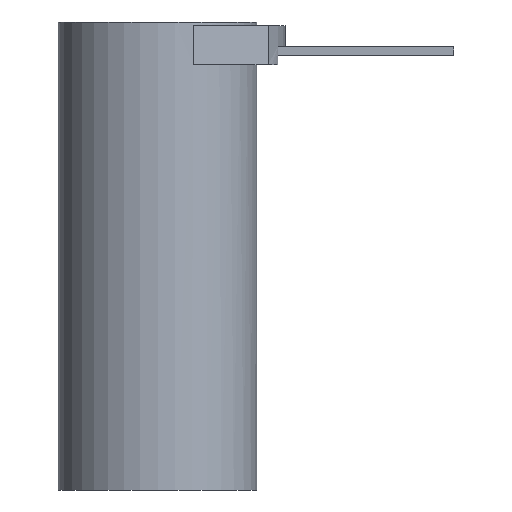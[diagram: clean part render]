
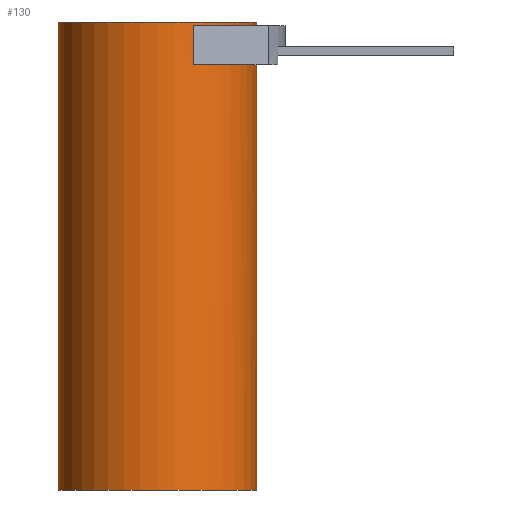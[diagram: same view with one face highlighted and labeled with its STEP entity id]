
A CAD part, front view. The second image highlights one B-rep face of the part: STEP entity #130.
In plain terms, the highlighted cylindrical face has radius 14 mm (diameter 28 mm), a partial arc.
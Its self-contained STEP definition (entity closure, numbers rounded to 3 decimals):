
#113=CYLINDRICAL_SURFACE('',#597,14.);
#130=ADVANCED_FACE('',(#175),#113,.T.);
#175=FACE_OUTER_BOUND('',#198,.T.);
#198=EDGE_LOOP('',(#301,#302,#303,#304,#305,#306,#307,#308,#309,#310));
#224=CIRCLE('',#577,14.);
#225=CIRCLE('',#580,14.);
#230=CIRCLE('',#590,14.);
#233=CIRCLE('',#595,14.);
#234=CIRCLE('',#596,14.);
#301=ORIENTED_EDGE('',*,*,#452,.F.);
#302=ORIENTED_EDGE('',*,*,#457,.F.);
#303=ORIENTED_EDGE('',*,*,#458,.T.);
#304=ORIENTED_EDGE('',*,*,#455,.T.);
#305=ORIENTED_EDGE('',*,*,#459,.F.);
#306=ORIENTED_EDGE('',*,*,#453,.F.);
#307=ORIENTED_EDGE('',*,*,#438,.F.);
#308=ORIENTED_EDGE('',*,*,#435,.F.);
#309=ORIENTED_EDGE('',*,*,#434,.F.);
#310=ORIENTED_EDGE('',*,*,#448,.F.);
#388=VERTEX_POINT('',#794);
#390=VERTEX_POINT('',#798);
#391=VERTEX_POINT('',#802);
#393=VERTEX_POINT('',#808);
#398=VERTEX_POINT('',#825);
#400=VERTEX_POINT('',#833);
#401=VERTEX_POINT('',#837);
#402=VERTEX_POINT('',#839);
#403=VERTEX_POINT('',#841);
#404=VERTEX_POINT('',#843);
#434=EDGE_CURVE('',#390,#388,#224,.T.);
#435=EDGE_CURVE('',#388,#391,#498,.T.);
#438=EDGE_CURVE('',#391,#393,#225,.T.);
#448=EDGE_CURVE('',#398,#390,#508,.T.);
#452=EDGE_CURVE('',#400,#398,#230,.T.);
#453=EDGE_CURVE('',#393,#401,#510,.T.);
#455=EDGE_CURVE('',#403,#402,#511,.T.);
#457=EDGE_CURVE('',#404,#400,#512,.T.);
#458=EDGE_CURVE('',#404,#403,#233,.T.);
#459=EDGE_CURVE('',#401,#402,#234,.T.);
#498=LINE('',#801,#537);
#508=LINE('',#827,#547);
#510=LINE('',#836,#549);
#511=LINE('',#840,#550);
#512=LINE('',#844,#551);
#537=VECTOR('',#647,1.);
#547=VECTOR('',#671,1.);
#549=VECTOR('',#685,1.);
#550=VECTOR('',#688,1.);
#551=VECTOR('',#691,1.);
#577=AXIS2_PLACEMENT_3D('',#799,#643,#644);
#580=AXIS2_PLACEMENT_3D('',#807,#652,#653);
#590=AXIS2_PLACEMENT_3D('',#834,#681,#682);
#595=AXIS2_PLACEMENT_3D('',#846,#694,#695);
#596=AXIS2_PLACEMENT_3D('',#847,#696,#697);
#597=AXIS2_PLACEMENT_3D('',#848,#698,#699);
#643=DIRECTION('',(0.,0.,1.));
#644=DIRECTION('',(-1.,0.,0.));
#647=DIRECTION('',(0.,0.,1.));
#652=DIRECTION('',(0.,0.,1.));
#653=DIRECTION('',(0.565,-0.825,0.));
#671=DIRECTION('',(0.,0.,-1.));
#681=DIRECTION('',(0.,0.,-1.));
#682=DIRECTION('',(-1.,0.,0.));
#685=DIRECTION('',(0.,0.,-1.));
#688=DIRECTION('',(0.,0.,-1.));
#691=DIRECTION('',(0.,0.,-1.));
#694=DIRECTION('',(0.,0.,-1.));
#695=DIRECTION('',(0.,1.,0.));
#696=DIRECTION('',(0.,0.,-1.));
#697=DIRECTION('',(0.,1.,0.));
#698=DIRECTION('',(0.,0.,-1.));
#699=DIRECTION('',(0.,-1.,0.));
#794=CARTESIAN_POINT('',(12.649,-6.,60.));
#798=CARTESIAN_POINT('',(5.03,-13.065,60.));
#799=CARTESIAN_POINT('',(0.,0.,60.));
#801=CARTESIAN_POINT('',(12.649,-6.,59.98));
#802=CARTESIAN_POINT('',(12.649,-6.,62.5));
#807=CARTESIAN_POINT('',(0.,0.,62.5));
#808=CARTESIAN_POINT('',(14.,0.,62.5));
#825=CARTESIAN_POINT('',(5.03,-13.065,65.5));
#827=CARTESIAN_POINT('',(5.03,-13.065,66.02));
#833=CARTESIAN_POINT('',(14.,0.,65.5));
#834=CARTESIAN_POINT('',(0.,0.,65.5));
#836=CARTESIAN_POINT('',(14.,0.,0.));
#837=CARTESIAN_POINT('',(14.,0.,0.));
#839=CARTESIAN_POINT('',(-14.,0.,0.));
#840=CARTESIAN_POINT('',(-14.,0.,0.));
#841=CARTESIAN_POINT('',(-14.,0.,66.));
#843=CARTESIAN_POINT('',(14.,0.,66.));
#844=CARTESIAN_POINT('',(14.,0.,0.));
#846=CARTESIAN_POINT('',(0.,0.,66.));
#847=CARTESIAN_POINT('',(0.,0.,0.));
#848=CARTESIAN_POINT('',(0.,0.,66.));
